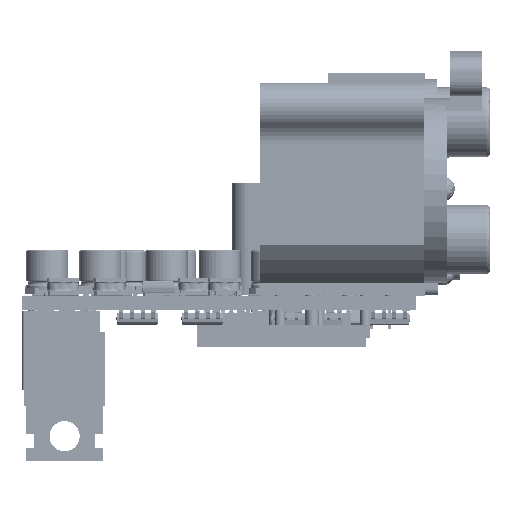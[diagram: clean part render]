
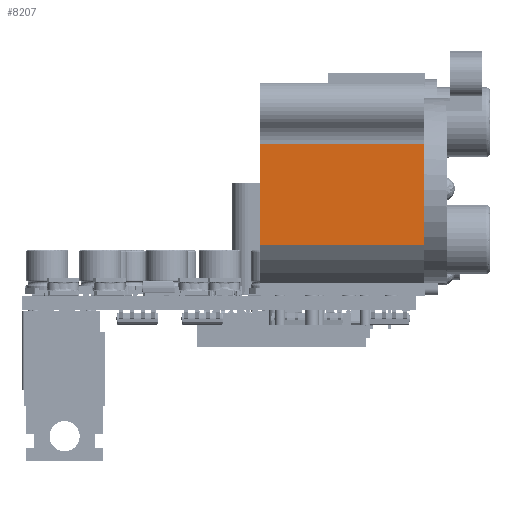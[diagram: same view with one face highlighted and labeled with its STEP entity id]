
A CAD part, left-side view. The second image highlights one B-rep face of the part: STEP entity #8207.
In plain terms, the highlighted planar face has unit normal (-1, 0, 0) as drawn and (1, 0, 0) by its records, which use the part's own axes.
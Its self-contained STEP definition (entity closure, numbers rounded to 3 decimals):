
#1657 = CARTESIAN_POINT ( 'NONE',  ( 11., 5.588, 0. ) ) ;
#4879 = ORIENTED_EDGE ( 'NONE', *, *, #94152, .F. ) ;
#8207 = ADVANCED_FACE ( 'NONE', ( #70235 ), #93754, .T. ) ;
#11212 = VERTEX_POINT ( 'NONE', #113178 ) ;
#11356 = EDGE_LOOP ( 'NONE', ( #134438, #4879, #122788, #33473, #115262 ) ) ;
#13135 = VERTEX_POINT ( 'NONE', #154303 ) ;
#13341 = VECTOR ( 'NONE', #51999, 1000. ) ;
#16641 = VECTOR ( 'NONE', #145963, 1000. ) ;
#16730 = LINE ( 'NONE', #127266, #13341 ) ;
#17575 = CARTESIAN_POINT ( 'NONE',  ( 11., -6.545, 0. ) ) ;
#24294 = EDGE_CURVE ( 'NONE', #62841, #117209, #48185, .T. ) ;
#32899 = CARTESIAN_POINT ( 'NONE',  ( 11., 0., 0. ) ) ;
#33473 = ORIENTED_EDGE ( 'NONE', *, *, #24294, .T. ) ;
#39528 = DIRECTION ( 'NONE',  ( 0., 1., 0. ) ) ;
#44807 = LINE ( 'NONE', #140539, #16641 ) ;
#47195 = EDGE_CURVE ( 'NONE', #11212, #62841, #76540, .T. ) ;
#48185 = LINE ( 'NONE', #122725, #76887 ) ;
#49817 = DIRECTION ( 'NONE',  ( 0., 1., 0. ) ) ;
#51999 = DIRECTION ( 'NONE',  ( 0., 0., 1. ) ) ;
#62841 = VERTEX_POINT ( 'NONE', #17575 ) ;
#64789 = CARTESIAN_POINT ( 'NONE',  ( 11., -6.545, 0. ) ) ;
#70235 = FACE_OUTER_BOUND ( 'NONE', #11356, .T. ) ;
#76540 = LINE ( 'NONE', #64789, #82352 ) ;
#76887 = VECTOR ( 'NONE', #39528, 1000. ) ;
#78847 = DIRECTION ( 'NONE',  ( 0., 0., -1. ) ) ;
#82352 = VECTOR ( 'NONE', #78847, 1000. ) ;
#92829 = VERTEX_POINT ( 'NONE', #1657 ) ;
#93754 = PLANE ( 'NONE',  #151740 ) ;
#94152 = EDGE_CURVE ( 'NONE', #11212, #13135, #44807, .T. ) ;
#103669 = EDGE_CURVE ( 'NONE', #92829, #13135, #16730, .T. ) ;
#111354 = VECTOR ( 'NONE', #49817, 1000. ) ;
#113178 = CARTESIAN_POINT ( 'NONE',  ( 11., -6.545, 19.5 ) ) ;
#115262 = ORIENTED_EDGE ( 'NONE', *, *, #152772, .T. ) ;
#117209 = VERTEX_POINT ( 'NONE', #32899 ) ;
#122725 = CARTESIAN_POINT ( 'NONE',  ( 11., -6.545, 0. ) ) ;
#122788 = ORIENTED_EDGE ( 'NONE', *, *, #47195, .T. ) ;
#122809 = LINE ( 'NONE', #146328, #111354 ) ;
#127266 = CARTESIAN_POINT ( 'NONE',  ( 11., 5.588, 0. ) ) ;
#130628 = DIRECTION ( 'NONE',  ( 1., 0., 0. ) ) ;
#134438 = ORIENTED_EDGE ( 'NONE', *, *, #103669, .T. ) ;
#140539 = CARTESIAN_POINT ( 'NONE',  ( 11., 0., 19.5 ) ) ;
#142406 = DIRECTION ( 'NONE',  ( 0., 0., -1. ) ) ;
#145963 = DIRECTION ( 'NONE',  ( 0., 1., 0. ) ) ;
#146328 = CARTESIAN_POINT ( 'NONE',  ( 11., -6.545, 0. ) ) ;
#151740 = AXIS2_PLACEMENT_3D ( 'NONE', #154158, #130628, #142406 ) ;
#152772 = EDGE_CURVE ( 'NONE', #117209, #92829, #122809, .T. ) ;
#154158 = CARTESIAN_POINT ( 'NONE',  ( 11., -6.545, 0. ) ) ;
#154303 = CARTESIAN_POINT ( 'NONE',  ( 11., 5.588, 19.5 ) ) ;
